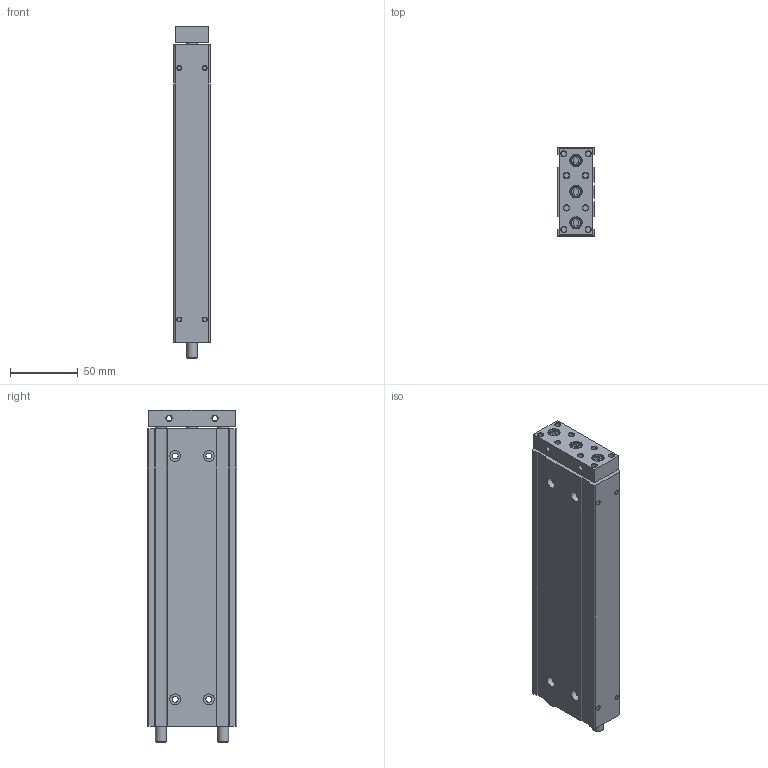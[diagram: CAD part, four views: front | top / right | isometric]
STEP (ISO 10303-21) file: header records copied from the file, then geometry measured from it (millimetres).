
FILE_DESCRIPTION((''),'2;1');
FILE_NAME('I:\3D電子目錄\氣缸\TB(U)\TB(U)16\TB(U)16\TB(U)16x175.stp','2007-08-06T08:10:39',('Administrator'),(''),'Autodesk Inventor 2008','Autodesk Inventor 2008','');
FILE_SCHEMA(('AUTOMOTIVE_DESIGN { 1 0 10303 214 1 1 1 1 }'));
Length unit declared in the file: millimetre
Products named in the file (1): TB(U)16X175
Bounding box: 27 x 66 x 245.5 mm (x, y, z)
Volume: 388321.8 mm3; surface area: 60938.1 mm2
Topology: 1 solids, 1 shells, 184 faces, 396 edges, 252 vertices
Faces by surface type: plane 84, cylinder 52, cone 37, bspline 8, torus 3
Full cylindrical faces by diameter (mm): 3 x4, 4 x10, 4.4 x4, 5 x6, 7.5 x3, 8 x13, 8.5 x3, 15 x2, 18 x1
Entity records: 4640 total; most frequent: CARTESIAN_POINT 815, DIRECTION 808, ORIENTED_EDGE 604, EDGE_LOOP 344, AXIS2_PLACEMENT_3D 329, EDGE_CURVE 302, VERTEX_POINT 248, FACE_OUTER_BOUND 184
